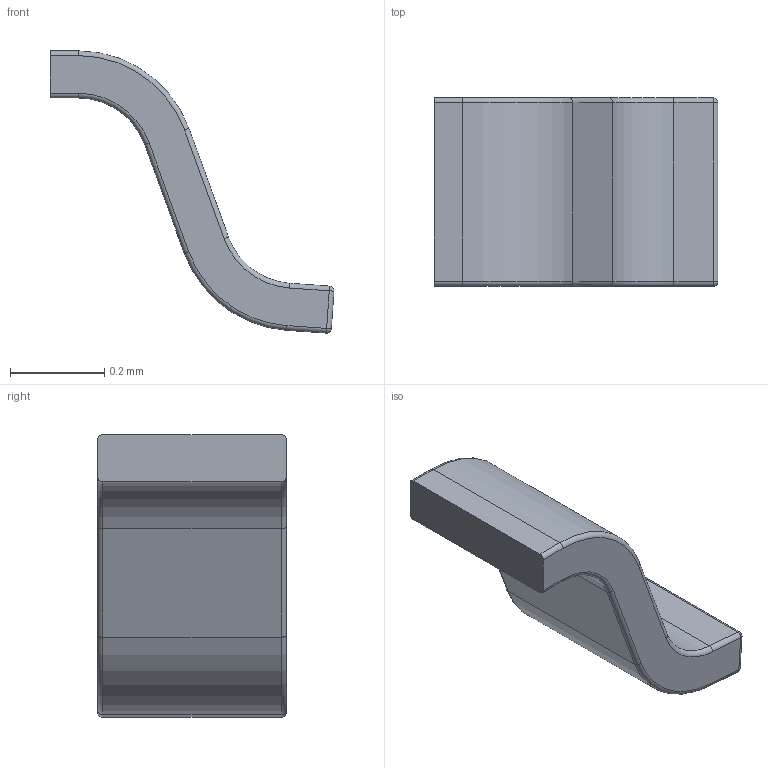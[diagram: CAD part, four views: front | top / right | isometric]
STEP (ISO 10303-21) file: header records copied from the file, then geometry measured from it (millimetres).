
FILE_DESCRIPTION(/* description */ ('STEP AP242 Edition 2','CAx-IF Rec.Pracs.---Representation and Presentation of Product Manufacturing Information (PMI)---4.0---2014-10-13','CAx-IF Rec.Pracs.---3D Tessellated Geometry---0.4---2014-09-14','2;1','CAx-IF Rec.Pracs.---User Defined Attributes---1.5---2016-08-15'),/* implementation_level */ '2;1');
FILE_NAME(/* name */ 'Assembly 1 - SOT-23-3_L2.9-W1.3-P0.95-LS2.4-BR~SOT-23-3P_L2.9-W1.3-H1.0-LS2.4-P0.95~nxQB (11)',/* time_stamp */ '2026-04-02T09:55:23Z',/* author */ (''),/* organization */ (''),/* preprocessor_version */ 'ST-DEVELOPER v20',/* originating_system */ 'ONSHAPE BY PTC INC, 1.212',/* authorisation */ ' ');
FILE_SCHEMA (('AP242_MANAGED_MODEL_BASED_3D_ENGINEERING_MIM_LF { 1 0 10303 442 3 1 4 }'));
Length unit declared in the file: metre
Products named in the file (1): SOT-23-3_L2.9-W1.3-P0.95-LS2.4-BR~SOT-23-3P_L2.9-W1.3-H1.0-LS2.4-P0.9
5~nxQB
Bounding box: 0.6 x 0.4 x 0.6 mm (x, y, z)
Volume: 0 mm3; surface area: 0.9 mm2
Topology: 1 solids, 1 shells, 42 faces, 96 edges, 54 vertices
Faces by surface type: cylinder 20, plane 10, torus 8, sphere 4
Entity records: 1457 total; most frequent: DIRECTION 226, CARTESIAN_POINT 187, ORIENTED_EDGE 184, EDGE_CURVE 92, AXIS2_PLACEMENT_3D 91, VERTEX_POINT 52, CIRCLE 48, LINE 44
